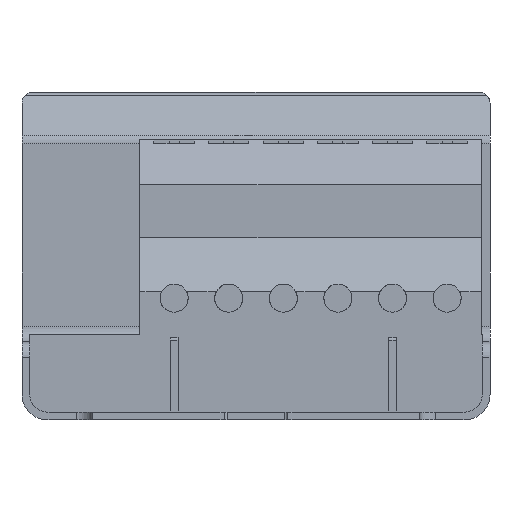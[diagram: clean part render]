
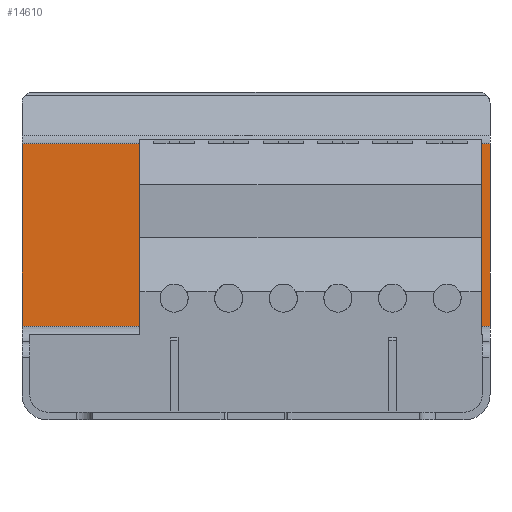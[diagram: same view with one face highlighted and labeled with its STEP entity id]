
A CAD part, front view. The second image highlights one B-rep face of the part: STEP entity #14610.
In plain terms, the highlighted planar face has unit normal (0, -1, 0).
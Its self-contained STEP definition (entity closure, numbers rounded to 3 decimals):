
#5051=DIRECTION('',(1.,0.,0.));
#5052=VECTOR('',#5051,30.);
#5053=CARTESIAN_POINT('',(-15.,-110.7,6.));
#5054=LINE('',#5053,#5052);
#7108=DIRECTION('',(0.,0.,1.));
#7109=VECTOR('',#7108,11.71);
#7110=CARTESIAN_POINT('',(-15.,-110.7,6.));
#7111=LINE('',#7110,#7109);
#7115=DIRECTION('',(1.,0.,0.));
#7116=VECTOR('',#7115,30.);
#7117=CARTESIAN_POINT('',(-15.,-110.7,17.71));
#7118=LINE('',#7117,#7116);
#7122=DIRECTION('',(0.,0.,-1.));
#7123=VECTOR('',#7122,11.71);
#7124=CARTESIAN_POINT('',(15.,-110.7,17.71));
#7125=LINE('',#7124,#7123);
#9103=CARTESIAN_POINT('',(-15.,-110.7,17.71));
#9104=CARTESIAN_POINT('',(15.,-110.7,17.71));
#9105=VERTEX_POINT('',#9103);
#9106=VERTEX_POINT('',#9104);
#9203=CARTESIAN_POINT('',(15.,-110.7,6.));
#9204=VERTEX_POINT('',#9203);
#9205=CARTESIAN_POINT('',(-15.,-110.7,6.));
#9206=VERTEX_POINT('',#9205);
#14598=CARTESIAN_POINT('',(-15.,-110.7,5.45));
#14599=DIRECTION('',(0.,-1.,0.));
#14600=DIRECTION('',(0.,0.,1.));
#14601=AXIS2_PLACEMENT_3D('',#14598,#14599,#14600);
#14602=PLANE('',#14601);
#14603=ORIENTED_EDGE('',*,*,#12868,.F.);
#14604=ORIENTED_EDGE('',*,*,#9264,.T.);
#14606=ORIENTED_EDGE('',*,*,#14605,.T.);
#14607=ORIENTED_EDGE('',*,*,#9444,.T.);
#14608=EDGE_LOOP('',(#14603,#14604,#14606,#14607));
#14609=FACE_OUTER_BOUND('',#14608,.F.);
#9264=EDGE_CURVE('',#9206,#9105,#7111,.T.);
#9444=EDGE_CURVE('',#9106,#9204,#7125,.T.);
#12868=EDGE_CURVE('',#9206,#9204,#5054,.T.);
#14605=EDGE_CURVE('',#9105,#9106,#7118,.T.);
#14610=ADVANCED_FACE('',(#14609),#14602,.T.);
